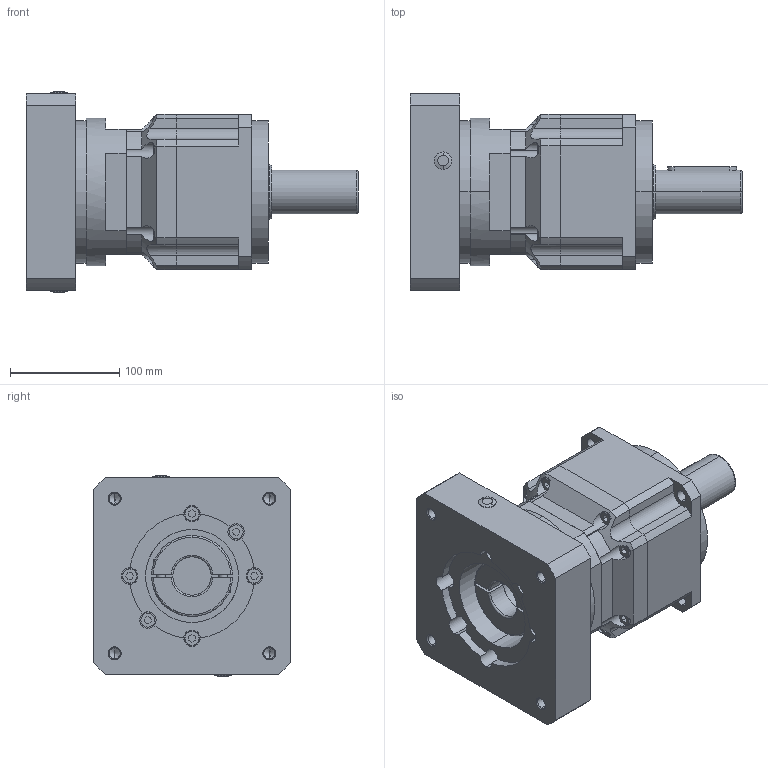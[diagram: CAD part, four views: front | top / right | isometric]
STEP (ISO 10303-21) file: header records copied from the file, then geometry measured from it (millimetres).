
FILE_DESCRIPTION (( 'STEP AP203' ), '1' );
FILE_NAME ('142-L2-35-114.3-200-M12-TÐÍ.STEP', '2020-06-20T09:21:10', ( 'ylmfeng' ), ( 'ylmfeng.com' ), 'SwSTEP 2.0', 'SolidWorks 2014', '' );
FILE_SCHEMA (( 'CONFIG_CONTROL_DESIGN' ));
Length unit declared in the file: millimetre
Products named in the file (1): 142-L2-35-114.3-200-M12-T倰
Bounding box: 303.5 x 180 x 183 mm (x, y, z)
Volume: 4019457.7 mm3; surface area: 378002.1 mm2
Topology: 27 solids, 27 shells, 724 faces, 1757 edges, 1092 vertices
Faces by surface type: plane 328, cylinder 225, cone 88, torus 55, bspline 28
Entity records: 22998 total; most frequent: CARTESIAN_POINT 5941, DIRECTION 3679, ORIENTED_EDGE 3438, EDGE_CURVE 1719, AXIS2_PLACEMENT_3D 1412, VERTEX_POINT 1092, VECTOR 855, LINE 855
